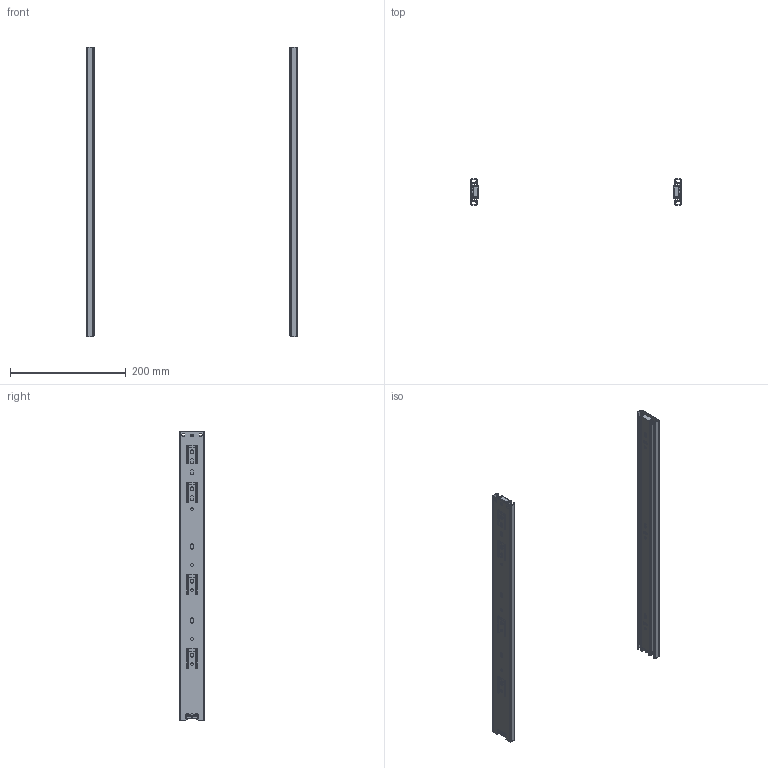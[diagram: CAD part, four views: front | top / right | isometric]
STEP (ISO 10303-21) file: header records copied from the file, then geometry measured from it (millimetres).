
FILE_DESCRIPTION(/* description */ (''),/* implementation_level */ '2;1');
FILE_NAME(/* name */ 'D:\$Workingspace\Designs\Katalog\Cadsoft\GTV Prowadnice\Prowadnice GTV_bryły 3D\PK-0-H45-500.stp',/* time_stamp */ '2016-11-22T11:27:47+01:00',/* author */ ('tomaszw'),/* organization */ (''),/* preprocessor_version */ 'ST-DEVELOPER v16.1',/* originating_system */ 'Autodesk Inventor 2016',/* authorisation */ '');
FILE_SCHEMA (('AUTOMOTIVE_DESIGN { 1 0 10303 214 3 1 1 }'));
Length unit declared in the file: millimetre
Products named in the file (5): Blokada_4; PK-0-H45_1-500; PK-0-H45_2-500; PK-0-H45_3-500; PK-0-H45
Assembly tree (8 placements, depth 2):
  PK-0-H45
    Blokada_4  x2
    PK-0-H45_1-500  x2
    PK-0-H45_2-500  x2
    PK-0-H45_3-500  x2
Bounding box: 364 x 44.5 x 500 mm (x, y, z)
Volume: 159345.8 mm3; surface area: 312089.5 mm2
Topology: 8 solids, 8 shells, 498 faces, 1438 edges, 956 vertices
Faces by surface type: cylinder 258, plane 236, cone 4
Full cylindrical faces by diameter (mm): 4.5 x12, 5 x6, 6.4 x8
Entity records: 8707 total; most frequent: DIRECTION 1478, CARTESIAN_POINT 1472, ORIENTED_EDGE 1412, EDGE_CURVE 706, AXIS2_PLACEMENT_3D 518, VERTEX_POINT 478, LINE 442, VECTOR 442
